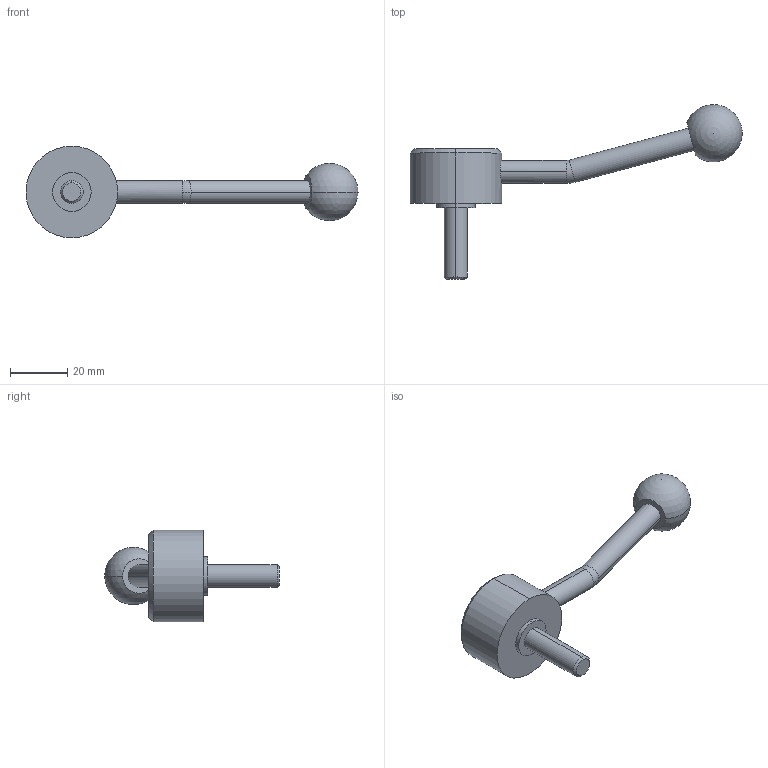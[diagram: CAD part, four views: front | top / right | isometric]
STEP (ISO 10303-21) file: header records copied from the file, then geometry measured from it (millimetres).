
FILE_DESCRIPTION (( 'STEP AP214' ), '1' );
FILE_NAME ('125.5-32-M8-25-E.step', '2020-02-18T11:26:31', ( '' ), ( '' ), 'SwSTEP 2.0', 'SolidWorks 2019', '' );
FILE_SCHEMA (( 'AUTOMOTIVE_DESIGN' ));
Length unit declared in the file: millimetre
Products named in the file (1): 125.5-32-M8-25-E
Bounding box: 115.96 x 61 x 32 mm (x, y, z)
Volume: 24195.6 mm3; surface area: 6970 mm2
Topology: 1 solids, 1 shells, 26 faces, 57 edges, 36 vertices
Faces by surface type: cylinder 12, plane 6, cone 4, torus 2, sphere 2
Entity records: 852 total; most frequent: CARTESIAN_POINT 178, DIRECTION 138, ORIENTED_EDGE 104, AXIS2_PLACEMENT_3D 61, EDGE_CURVE 52, CIRCLE 34, VERTEX_POINT 33, EDGE_LOOP 31
